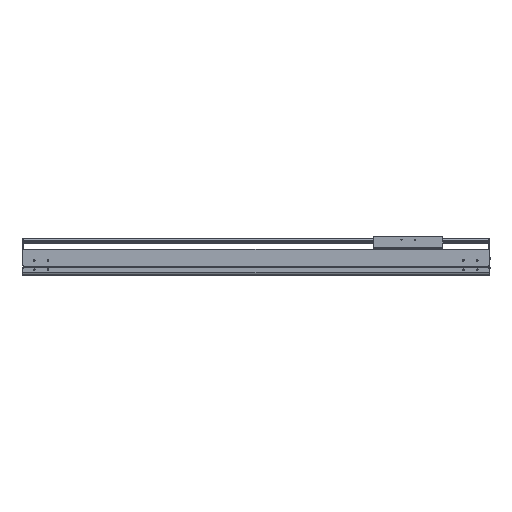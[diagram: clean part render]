
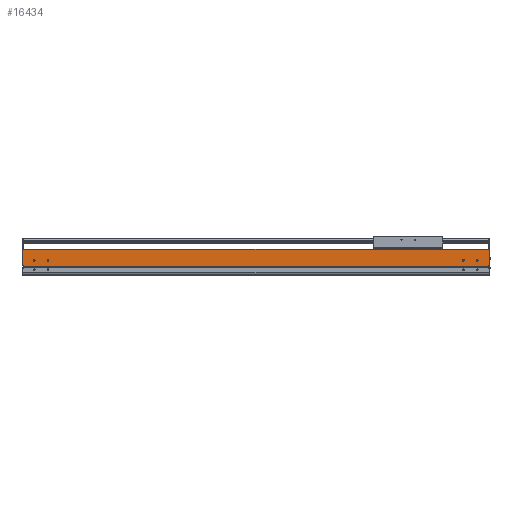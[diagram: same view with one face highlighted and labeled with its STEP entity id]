
A CAD part, top view. The second image highlights one B-rep face of the part: STEP entity #16434.
In plain terms, the highlighted planar face has unit normal (0, 0, 1).
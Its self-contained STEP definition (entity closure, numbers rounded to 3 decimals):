
#702=DIRECTION('',(1.,0.,0.));
#703=VECTOR('',#702,2.);
#704=CARTESIAN_POINT('',(-1686.,34.65,107.));
#705=LINE('',#704,#703);
#706=CARTESIAN_POINT('',(-42.,54.,107.));
#707=DIRECTION('',(0.,0.,-1.));
#708=DIRECTION('',(1.,0.,0.));
#709=AXIS2_PLACEMENT_3D('',#706,#707,#708);
#711=CARTESIAN_POINT('',(-42.,54.,107.));
#712=DIRECTION('',(0.,0.,-1.));
#713=DIRECTION('',(-1.,0.,0.));
#714=AXIS2_PLACEMENT_3D('',#711,#712,#713);
#716=CARTESIAN_POINT('',(-92.,54.,107.));
#717=DIRECTION('',(0.,0.,-1.));
#718=DIRECTION('',(1.,0.,0.));
#719=AXIS2_PLACEMENT_3D('',#716,#717,#718);
#721=CARTESIAN_POINT('',(-92.,54.,107.));
#722=DIRECTION('',(0.,0.,-1.));
#723=DIRECTION('',(-1.,0.,0.));
#724=AXIS2_PLACEMENT_3D('',#721,#722,#723);
#726=CARTESIAN_POINT('',(-1644.,54.,107.));
#727=DIRECTION('',(0.,0.,-1.));
#728=DIRECTION('',(1.,0.,0.));
#729=AXIS2_PLACEMENT_3D('',#726,#727,#728);
#731=CARTESIAN_POINT('',(-1644.,54.,107.));
#732=DIRECTION('',(0.,0.,-1.));
#733=DIRECTION('',(-1.,0.,0.));
#734=AXIS2_PLACEMENT_3D('',#731,#732,#733);
#736=CARTESIAN_POINT('',(-1594.,54.,107.));
#737=DIRECTION('',(0.,0.,-1.));
#738=DIRECTION('',(1.,0.,0.));
#739=AXIS2_PLACEMENT_3D('',#736,#737,#738);
#741=CARTESIAN_POINT('',(-1594.,54.,107.));
#742=DIRECTION('',(0.,0.,-1.));
#743=DIRECTION('',(-1.,0.,0.));
#744=AXIS2_PLACEMENT_3D('',#741,#742,#743);
#746=DIRECTION('',(0.,-1.,0.));
#747=VECTOR('',#746,2.55);
#748=CARTESIAN_POINT('',(-1684.,34.65,107.));
#749=LINE('',#748,#747);
#750=DIRECTION('',(0.,-1.,0.));
#751=VECTOR('',#750,58.85);
#752=CARTESIAN_POINT('',(-1686.,93.5,107.));
#753=LINE('',#752,#751);
#754=DIRECTION('',(0.,1.,0.));
#755=VECTOR('',#754,58.85);
#756=CARTESIAN_POINT('',(2.,34.65,107.));
#757=LINE('',#756,#755);
#758=DIRECTION('',(0.,1.,0.));
#759=VECTOR('',#758,2.55);
#760=CARTESIAN_POINT('',(0.,32.1,107.));
#761=LINE('',#760,#759);
#866=DIRECTION('',(-1.,0.,0.));
#867=VECTOR('',#866,1688.);
#868=CARTESIAN_POINT('',(2.,93.5,107.));
#869=LINE('',#868,#867);
#3267=DIRECTION('',(1.,0.,0.));
#3268=VECTOR('',#3267,1684.);
#3269=CARTESIAN_POINT('',(-1684.,32.1,107.));
#3270=LINE('',#3269,#3268);
#3275=DIRECTION('',(1.,0.,0.));
#3276=VECTOR('',#3275,2.);
#3277=CARTESIAN_POINT('',(0.,34.65,107.));
#3278=LINE('',#3277,#3276);
#12255=CARTESIAN_POINT('',(-1686.,34.65,107.));
#12256=VERTEX_POINT('',#12255);
#12257=CARTESIAN_POINT('',(-1686.,93.5,107.));
#12258=VERTEX_POINT('',#12257);
#12479=CARTESIAN_POINT('',(-1684.,32.1,107.));
#12480=VERTEX_POINT('',#12479);
#12551=CARTESIAN_POINT('',(0.,32.1,107.));
#12552=VERTEX_POINT('',#12551);
#13017=CARTESIAN_POINT('',(-39.5,54.,107.));
#13018=CARTESIAN_POINT('',(-44.5,54.,107.));
#13019=VERTEX_POINT('',#13017);
#13020=VERTEX_POINT('',#13018);
#13021=CARTESIAN_POINT('',(-89.5,54.,107.));
#13022=CARTESIAN_POINT('',(-94.5,54.,107.));
#13023=VERTEX_POINT('',#13021);
#13024=VERTEX_POINT('',#13022);
#13025=CARTESIAN_POINT('',(-1641.5,54.,107.));
#13026=CARTESIAN_POINT('',(-1646.5,54.,107.));
#13027=VERTEX_POINT('',#13025);
#13028=VERTEX_POINT('',#13026);
#13029=CARTESIAN_POINT('',(-1591.5,54.,107.));
#13030=CARTESIAN_POINT('',(-1596.5,54.,107.));
#13031=VERTEX_POINT('',#13029);
#13032=VERTEX_POINT('',#13030);
#14208=CARTESIAN_POINT('',(2.,34.65,107.));
#14209=VERTEX_POINT('',#14208);
#14210=CARTESIAN_POINT('',(2.,93.5,107.));
#14211=VERTEX_POINT('',#14210);
#14432=CARTESIAN_POINT('',(0.,34.65,107.));
#14433=VERTEX_POINT('',#14432);
#14744=CARTESIAN_POINT('',(-1684.,34.65,107.));
#14745=VERTEX_POINT('',#14744);
#16390=CARTESIAN_POINT('',(-842.,62.8,107.));
#16391=DIRECTION('',(0.,0.,1.));
#16392=DIRECTION('',(0.,-1.,0.));
#16393=AXIS2_PLACEMENT_3D('',#16390,#16391,#16392);
#16394=PLANE('',#16393);
#16395=ORIENTED_EDGE('',*,*,#15753,.F.);
#16396=ORIENTED_EDGE('',*,*,#16385,.F.);
#16397=ORIENTED_EDGE('',*,*,#15627,.F.);
#16399=ORIENTED_EDGE('',*,*,#16398,.F.);
#16401=ORIENTED_EDGE('',*,*,#16400,.F.);
#16403=ORIENTED_EDGE('',*,*,#16402,.F.);
#16405=ORIENTED_EDGE('',*,*,#16404,.F.);
#16407=ORIENTED_EDGE('',*,*,#16406,.F.);
#16408=EDGE_LOOP('',(#16395,#16396,#16397,#16399,#16401,#16403,#16405,#16407));
#16409=FACE_OUTER_BOUND('',#16408,.F.);
#16411=ORIENTED_EDGE('',*,*,#16410,.F.);
#16413=ORIENTED_EDGE('',*,*,#16412,.F.);
#16414=EDGE_LOOP('',(#16411,#16413));
#16415=FACE_BOUND('',#16414,.F.);
#16417=ORIENTED_EDGE('',*,*,#16416,.F.);
#16419=ORIENTED_EDGE('',*,*,#16418,.F.);
#16420=EDGE_LOOP('',(#16417,#16419));
#16421=FACE_BOUND('',#16420,.F.);
#16423=ORIENTED_EDGE('',*,*,#16422,.F.);
#16425=ORIENTED_EDGE('',*,*,#16424,.F.);
#16426=EDGE_LOOP('',(#16423,#16425));
#16427=FACE_BOUND('',#16426,.F.);
#16429=ORIENTED_EDGE('',*,*,#16428,.F.);
#16431=ORIENTED_EDGE('',*,*,#16430,.F.);
#16432=EDGE_LOOP('',(#16429,#16431));
#16433=FACE_BOUND('',#16432,.F.);
#16434=ADVANCED_FACE('',(#16409,#16415,#16421,#16427,#16433),#16394,.T.);
#710=CIRCLE('',#709,2.5);
#715=CIRCLE('',#714,2.5);
#720=CIRCLE('',#719,2.5);
#725=CIRCLE('',#724,2.5);
#730=CIRCLE('',#729,2.5);
#735=CIRCLE('',#734,2.5);
#740=CIRCLE('',#739,2.5);
#745=CIRCLE('',#744,2.5);
#15627=EDGE_CURVE('',#12258,#12256,#753,.T.);
#15753=EDGE_CURVE('',#14745,#12480,#749,.T.);
#16385=EDGE_CURVE('',#12256,#14745,#705,.T.);
#16398=EDGE_CURVE('',#14211,#12258,#869,.T.);
#16400=EDGE_CURVE('',#14209,#14211,#757,.T.);
#16402=EDGE_CURVE('',#14433,#14209,#3278,.T.);
#16404=EDGE_CURVE('',#12552,#14433,#761,.T.);
#16406=EDGE_CURVE('',#12480,#12552,#3270,.T.);
#16410=EDGE_CURVE('',#13023,#13024,#720,.T.);
#16412=EDGE_CURVE('',#13024,#13023,#725,.T.);
#16416=EDGE_CURVE('',#13027,#13028,#730,.T.);
#16418=EDGE_CURVE('',#13028,#13027,#735,.T.);
#16422=EDGE_CURVE('',#13031,#13032,#740,.T.);
#16424=EDGE_CURVE('',#13032,#13031,#745,.T.);
#16428=EDGE_CURVE('',#13019,#13020,#710,.T.);
#16430=EDGE_CURVE('',#13020,#13019,#715,.T.);
